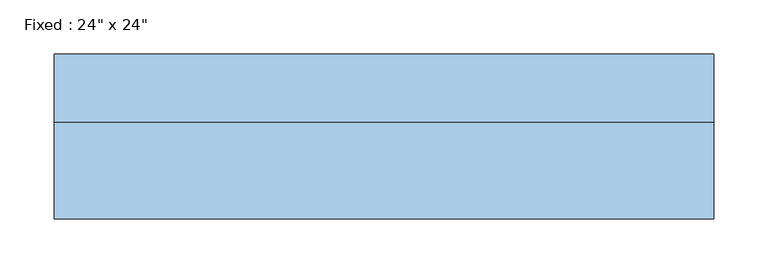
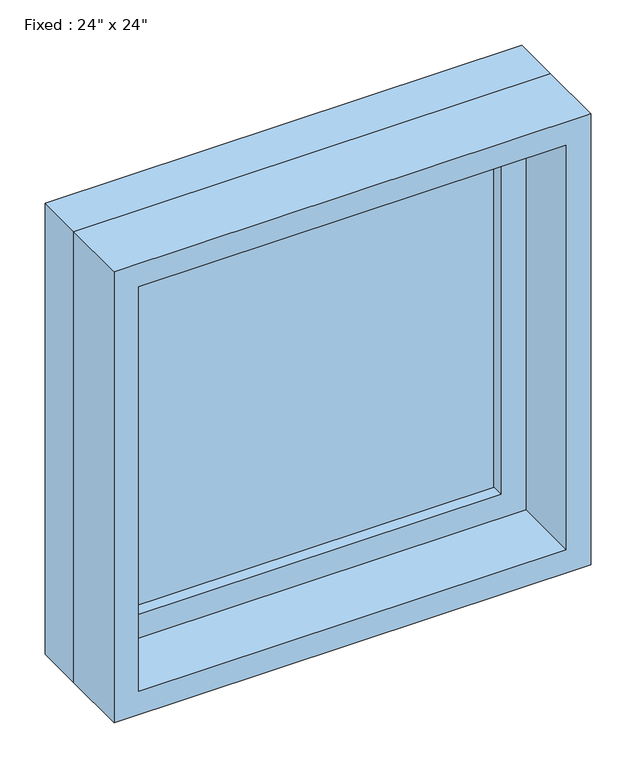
"""IFC4 building model written with IfcOpenShell, lengths in millimetres: window geometry."""

from ifc_helpers import new_model, si_unit, frame, origin, place, context, project, spatial, polyline, outline, extrude, source, transform, mapped, element, save


def window_aff1bc2a(model_context):
    return source(origin(), model_context, "Body", "SweptSolid", [
        extrude(outline(polyline([(203.2, 28.575), (-279.4, 28.575), (-279.4, 41.275), (203.2, 41.275), (203.2, 28.575)])), frame((0.0, 0.0, 977.9), z_axis=(0.0, 0.0, 1.0), x_axis=(1.0, 0.0, 0.0)), (0.0, 0.0, 1.0), 482.6),
        extrude(outline(polyline([(1504.95, -323.85), (933.45, -323.85), (933.45, 247.65), (1504.95, 247.65), (1504.95, -323.85)]), holes=[polyline([(1460.5, -279.4), (1460.5, 203.2), (977.9, 203.2), (977.9, -279.4), (1460.5, -279.4)])]), frame((0.0, 12.7, 0.0), z_axis=(0.0, 1.0, 0.0), x_axis=(0.0, 0.0, 1.0)), (0.0, 0.0, 1.0), 44.45),
        extrude(outline(polyline([(1524.0, -342.9), (914.4, -342.9), (914.4, 266.7), (1524.0, 266.7), (1524.0, -342.9)]), holes=[polyline([(1492.25, -311.15), (1492.25, 234.95), (946.15, 234.95), (946.15, -311.15), (1492.25, -311.15)])]), frame((0.0, -76.2, 0.0), z_axis=(0.0, 1.0, 0.0), x_axis=(0.0, 0.0, 1.0)), (0.0, 0.0, 1.0), 88.9),
        extrude(outline(polyline([(1524.0, 266.7), (1524.0, -342.9), (914.4, -342.9), (914.4, 266.7), (1524.0, 266.7)]), holes=[polyline([(1504.95, 247.65), (933.45, 247.65), (933.45, -323.85), (1504.95, -323.85), (1504.95, 247.65)])]), frame((0.0, 12.7, 0.0), z_axis=(0.0, 1.0, 0.0), x_axis=(0.0, 0.0, 1.0)), (0.0, 0.0, 1.0), 63.5),
    ])


if __name__ == "__main__":
    model = new_model("IFC4")
    model_context = context("Model", 3, world=origin())
    ifc_project = project(units=[si_unit("LENGTHUNIT", "METRE", prefix="MILLI")], contexts=[model_context])
    site = spatial("IfcSite", under=ifc_project)
    building = spatial("IfcBuilding", under=site)
    placement = place(None, origin())
    window_shape = window_aff1bc2a(model_context)
    element("IfcWindow", 1, ObjectType="Fixed : 24\" x 24\"", at=placement, inside=building, context=model_context, shape_type="MappedRepresentation", body=[
        mapped(window_shape, transform((0.0, 0.0, 0.0), x_axis=(1.0, 0.0, 0.0), y_axis=(0.0, 1.0, 0.0), z_axis=(0.0, 0.0, 1.0))),
    ])
    save(model, "model.ifc")
